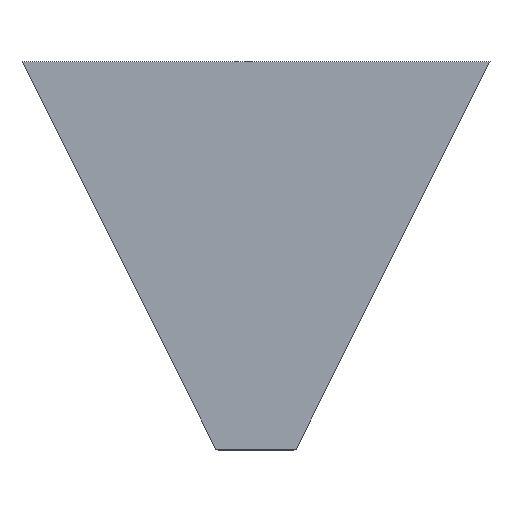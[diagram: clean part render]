
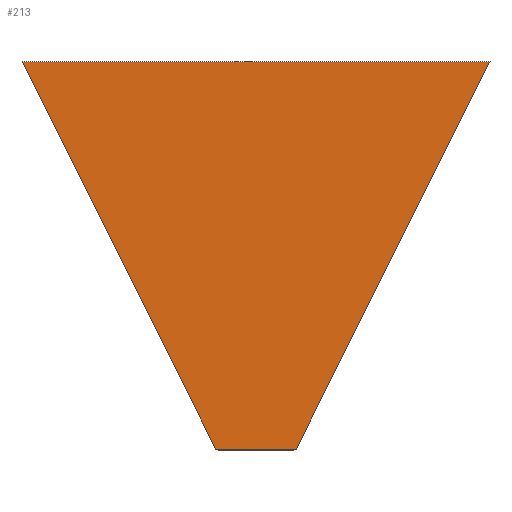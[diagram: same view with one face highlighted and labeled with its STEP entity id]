
A CAD part, top view. The second image highlights one B-rep face of the part: STEP entity #213.
In plain terms, the highlighted planar face has unit normal (0, 0, 1).
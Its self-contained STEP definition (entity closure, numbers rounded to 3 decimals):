
#44 = PLANE('',#45);
#45 = AXIS2_PLACEMENT_3D('',#46,#47,#48);
#46 = CARTESIAN_POINT('',(491.166,708.083,14.));
#47 = DIRECTION('',(0.707,-0.354,-0.612));
#48 = DIRECTION('',(0.655,0.,0.756));
#72 = PLANE('',#73);
#73 = AXIS2_PLACEMENT_3D('',#74,#75,#76);
#74 = CARTESIAN_POINT('',(0.,1408.095,
    14.022));
#75 = DIRECTION('',(-0.,0.866,-0.5));
#76 = DIRECTION('',(0.,-0.5,-0.866));
#100 = PLANE('',#101);
#101 = AXIS2_PLACEMENT_3D('',#102,#103,#104);
#102 = CARTESIAN_POINT('',(-491.166,708.083,14.));
#103 = DIRECTION('',(-0.707,-0.354,-0.612));
#104 = DIRECTION('',(0.655,0.,-0.756)
  );
#126 = PLANE('',#127);
#127 = AXIS2_PLACEMENT_3D('',#128,#129,#130);
#128 = CARTESIAN_POINT('',(0.,8.155,
    14.125));
#129 = DIRECTION('',(-0.,-0.866,0.5));
#130 = DIRECTION('',(0.,0.5,0.866));
#143 = VERTEX_POINT('',#144);
#144 = CARTESIAN_POINT('',(-145.785,10.392,18.));
#165 = EDGE_CURVE('',#166,#143,#168,.T.);
#166 = VERTEX_POINT('',#167);
#167 = CARTESIAN_POINT('',(145.785,10.392,18.));
#168 = SURFACE_CURVE('',#169,(#173,#180),.PCURVE_S1.);
#169 = LINE('',#170,#171);
#170 = CARTESIAN_POINT('',(145.785,10.392,18.));
#171 = VECTOR('',#172,1.);
#172 = DIRECTION('',(-1.,-0.,-0.));
#173 = PCURVE('',#126,#174);
#174 = DEFINITIONAL_REPRESENTATION('',(#175),#179);
#175 = LINE('',#176,#177);
#176 = CARTESIAN_POINT('',(4.474,-145.785));
#177 = VECTOR('',#178,1.);
#178 = DIRECTION('',(-0.,1.));
#179 = ( GEOMETRIC_REPRESENTATION_CONTEXT(2) 
PARAMETRIC_REPRESENTATION_CONTEXT() REPRESENTATION_CONTEXT('2D SPACE',''
  ) );
#180 = PCURVE('',#181,#186);
#181 = PLANE('',#182);
#182 = AXIS2_PLACEMENT_3D('',#183,#184,#185);
#183 = CARTESIAN_POINT('',(0.,902.037,18.));
#184 = DIRECTION('',(-0.,-0.,1.));
#185 = DIRECTION('',(1.,0.,0.));
#186 = DEFINITIONAL_REPRESENTATION('',(#187),#191);
#187 = LINE('',#188,#189);
#188 = CARTESIAN_POINT('',(145.785,-891.645));
#189 = VECTOR('',#190,1.);
#190 = DIRECTION('',(-1.,0.));
#191 = ( GEOMETRIC_REPRESENTATION_CONTEXT(2) 
PARAMETRIC_REPRESENTATION_CONTEXT() REPRESENTATION_CONTEXT('2D SPACE',''
  ) );
#213 = ADVANCED_FACE('',(#214),#181,.T.);
#214 = FACE_BOUND('',#215,.F.);
#215 = EDGE_LOOP('',(#216,#217,#240,#263));
#216 = ORIENTED_EDGE('',*,*,#165,.T.);
#217 = ORIENTED_EDGE('',*,*,#218,.T.);
#218 = EDGE_CURVE('',#143,#219,#221,.T.);
#219 = VERTEX_POINT('',#220);
#220 = CARTESIAN_POINT('',(-845.785,1410.392,18.));
#221 = SURFACE_CURVE('',#222,(#226,#233),.PCURVE_S1.);
#222 = LINE('',#223,#224);
#223 = CARTESIAN_POINT('',(-145.785,10.392,18.));
#224 = VECTOR('',#225,1.);
#225 = DIRECTION('',(-0.447,0.894,-0.));
#226 = PCURVE('',#181,#227);
#227 = DEFINITIONAL_REPRESENTATION('',(#228),#232);
#228 = LINE('',#229,#230);
#229 = CARTESIAN_POINT('',(-145.785,-891.645));
#230 = VECTOR('',#231,1.);
#231 = DIRECTION('',(-0.447,0.894));
#232 = ( GEOMETRIC_REPRESENTATION_CONTEXT(2) 
PARAMETRIC_REPRESENTATION_CONTEXT() REPRESENTATION_CONTEXT('2D SPACE',''
  ) );
#233 = PCURVE('',#100,#234);
#234 = DEFINITIONAL_REPRESENTATION('',(#235),#239);
#235 = LINE('',#236,#237);
#236 = CARTESIAN_POINT('',(223.081,745.863));
#237 = VECTOR('',#238,1.);
#238 = DIRECTION('',(-0.293,-0.956));
#239 = ( GEOMETRIC_REPRESENTATION_CONTEXT(2) 
PARAMETRIC_REPRESENTATION_CONTEXT() REPRESENTATION_CONTEXT('2D SPACE',''
  ) );
#240 = ORIENTED_EDGE('',*,*,#241,.T.);
#241 = EDGE_CURVE('',#219,#242,#244,.T.);
#242 = VERTEX_POINT('',#243);
#243 = CARTESIAN_POINT('',(845.785,1410.392,18.));
#244 = SURFACE_CURVE('',#245,(#249,#256),.PCURVE_S1.);
#245 = LINE('',#246,#247);
#246 = CARTESIAN_POINT('',(-845.785,1410.392,18.));
#247 = VECTOR('',#248,1.);
#248 = DIRECTION('',(1.,-0.,-0.));
#249 = PCURVE('',#181,#250);
#250 = DEFINITIONAL_REPRESENTATION('',(#251),#255);
#251 = LINE('',#252,#253);
#252 = CARTESIAN_POINT('',(-845.785,508.355));
#253 = VECTOR('',#254,1.);
#254 = DIRECTION('',(1.,-0.));
#255 = ( GEOMETRIC_REPRESENTATION_CONTEXT(2) 
PARAMETRIC_REPRESENTATION_CONTEXT() REPRESENTATION_CONTEXT('2D SPACE',''
  ) );
#256 = PCURVE('',#72,#257);
#257 = DEFINITIONAL_REPRESENTATION('',(#258),#262);
#258 = LINE('',#259,#260);
#259 = CARTESIAN_POINT('',(-4.594,845.785));
#260 = VECTOR('',#261,1.);
#261 = DIRECTION('',(-0.,-1.));
#262 = ( GEOMETRIC_REPRESENTATION_CONTEXT(2) 
PARAMETRIC_REPRESENTATION_CONTEXT() REPRESENTATION_CONTEXT('2D SPACE',''
  ) );
#263 = ORIENTED_EDGE('',*,*,#264,.T.);
#264 = EDGE_CURVE('',#242,#166,#265,.T.);
#265 = SURFACE_CURVE('',#266,(#270,#277),.PCURVE_S1.);
#266 = LINE('',#267,#268);
#267 = CARTESIAN_POINT('',(845.785,1410.392,18.));
#268 = VECTOR('',#269,1.);
#269 = DIRECTION('',(-0.447,-0.894,-0.));
#270 = PCURVE('',#181,#271);
#271 = DEFINITIONAL_REPRESENTATION('',(#272),#276);
#272 = LINE('',#273,#274);
#273 = CARTESIAN_POINT('',(845.785,508.355));
#274 = VECTOR('',#275,1.);
#275 = DIRECTION('',(-0.447,-0.894));
#276 = ( GEOMETRIC_REPRESENTATION_CONTEXT(2) 
PARAMETRIC_REPRESENTATION_CONTEXT() REPRESENTATION_CONTEXT('2D SPACE',''
  ) );
#277 = PCURVE('',#44,#278);
#278 = DEFINITIONAL_REPRESENTATION('',(#279),#283);
#279 = LINE('',#280,#281);
#280 = CARTESIAN_POINT('',(235.176,-750.8));
#281 = VECTOR('',#282,1.);
#282 = DIRECTION('',(-0.293,0.956));
#283 = ( GEOMETRIC_REPRESENTATION_CONTEXT(2) 
PARAMETRIC_REPRESENTATION_CONTEXT() REPRESENTATION_CONTEXT('2D SPACE',''
  ) );
